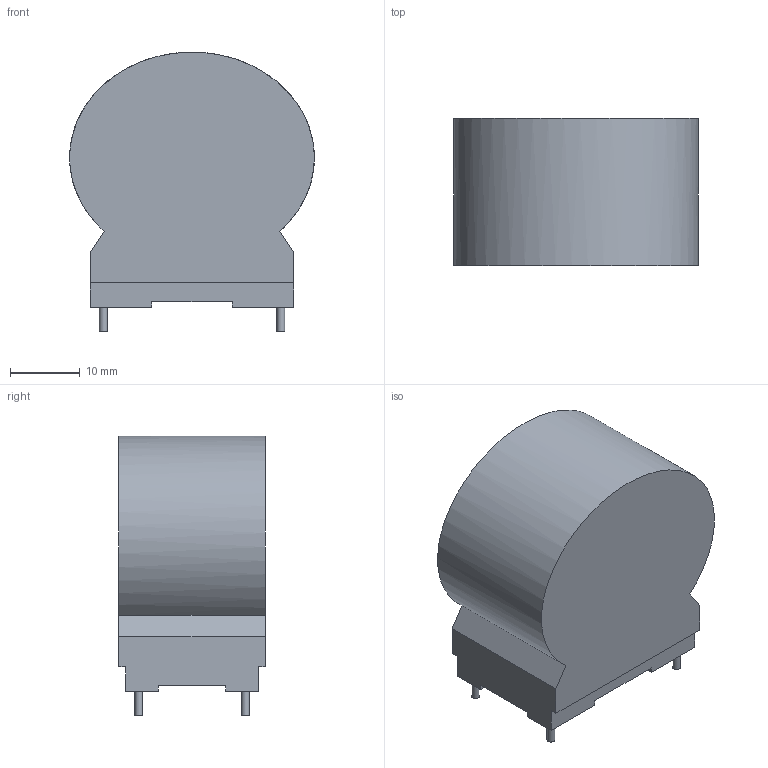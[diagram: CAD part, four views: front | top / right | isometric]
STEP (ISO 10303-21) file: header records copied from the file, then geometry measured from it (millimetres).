
FILE_DESCRIPTION(/* description */ (''),/* implementation_level */ '2;1');
FILE_NAME(/* name */ 'F:\Done\2016\产品3D模拟 新型号\修改针径\新建文件夹\6166-X208\6166-X208 3D Model.stp',/* time_stamp */ '2016-07-12T13:33:26+08:00',/* author */ ('CN000562'),/* organization */ (''),/* preprocessor_version */ 'ST-DEVELOPER v16.5',/* originating_system */ 'Autodesk Inventor 2017',/* authorisation */ '');
FILE_SCHEMA (('AUTOMOTIVE_DESIGN { 1 0 10303 214 3 1 1 }'));
Length unit declared in the file: millimetre
Products named in the file (1): 零件1
Bounding box: 34.99 x 21 x 39.99 mm (x, y, z)
Volume: 21787.7 mm3; surface area: 4841.1 mm2
Topology: 1 solids, 1 shells, 32 faces, 78 edges, 52 vertices
Faces by surface type: plane 27, cylinder 4, bspline 1
Full cylindrical faces by diameter (mm): 1.12 x4
Entity records: 951 total; most frequent: CARTESIAN_POINT 172, ORIENTED_EDGE 148, DIRECTION 148, EDGE_CURVE 74, LINE 64, VECTOR 64, VERTEX_POINT 52, AXIS2_PLACEMENT_3D 42
